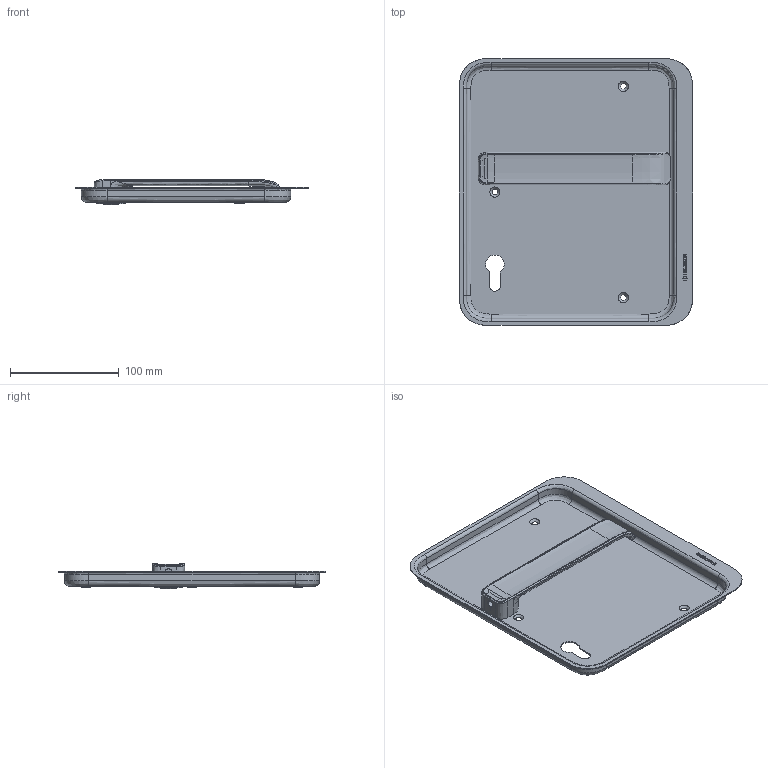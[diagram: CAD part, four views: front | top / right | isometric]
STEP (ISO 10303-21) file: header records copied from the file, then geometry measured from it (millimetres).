
FILE_DESCRIPTION(/* description */ (''),/* implementation_level */ '2;1');
FILE_NAME(/* name */ 'C:\ADSK_DMS_WS\Designs\Vorschläge\Loc Schalen\Muschel Serie 9\S9.13.D3\Heusser-Muschel S9.13.D3.388R.stp',/* time_stamp */ '2020-10-13T16:53:15+02:00',/* author */ ('gm'),/* organization */ (''),/* preprocessor_version */ 'ST-DEVELOPER v16.5',/* originating_system */ 'Autodesk Inventor 2017',/* authorisation */ '');
FILE_SCHEMA (('CONFIG_CONTROL_DESIGN','AUTOMOTIVE_DESIGN { 1 0 10303 214 3 1 1 }'));
Length unit declared in the file: millimetre
Products named in the file (1): S9.13.D3.0R
Bounding box: 214 x 245 x 23 mm (x, y, z)
Volume: 95572.1 mm3; surface area: 137066.7 mm2
Topology: 1 solids, 2 shells, 331 faces, 855 edges, 554 vertices
Faces by surface type: bspline 160, plane 133, cylinder 22, cone 16
Full cylindrical faces by diameter (mm): 1.7 x2, 14.2 x1, 16 x3, 18 x1, 19 x1, 19.1 x1, 23 x1, 23.2 x1, 24 x1, 25 x1, 26 x1, 28 x1
Entity records: 18456 total; most frequent: CARTESIAN_POINT 11095, ORIENTED_EDGE 1636, DIRECTION 977, EDGE_CURVE 818, VERTEX_POINT 548, LINE 419, VECTOR 419, EDGE_LOOP 408
